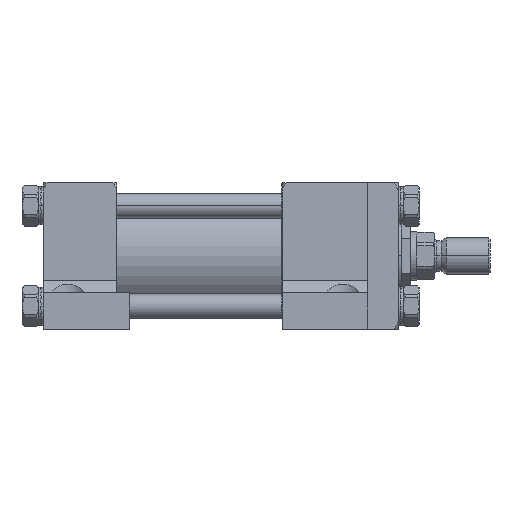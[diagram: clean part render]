
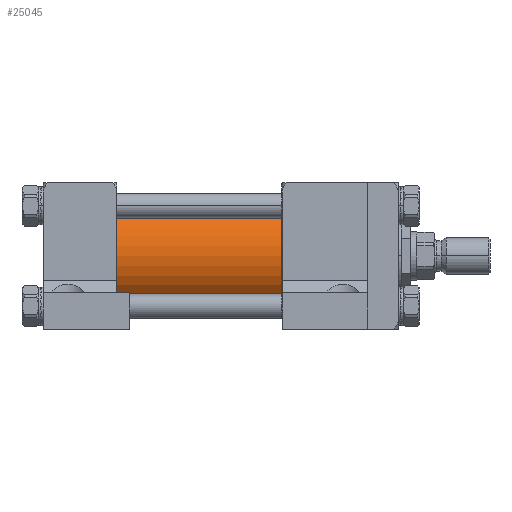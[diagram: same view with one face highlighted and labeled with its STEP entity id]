
A CAD part, front view. The second image highlights one B-rep face of the part: STEP entity #25045.
In plain terms, the highlighted cylindrical face has radius 30.163 mm (diameter 60.325 mm), a partial arc.
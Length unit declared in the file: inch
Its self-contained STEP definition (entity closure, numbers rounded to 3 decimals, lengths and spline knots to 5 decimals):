
#34 = LINE ( 'NONE', #56335, #26424 ) ;
#1640 = AXIS2_PLACEMENT_3D ( 'NONE', #3885, #55886, #46309 ) ;
#1739 = DIRECTION ( 'NONE',  ( 1., 0., 0. ) ) ;
#3885 = CARTESIAN_POINT ( 'NONE',  ( -6.75, 0., 0. ) ) ;
#4115 = LINE ( 'NONE', #4736, #44539 ) ;
#4736 = CARTESIAN_POINT ( 'NONE',  ( -6.75, 0., -1.1875 ) ) ;
#8928 = DIRECTION ( 'NONE',  ( 1., 0., 0. ) ) ;
#9049 = EDGE_CURVE ( 'NONE', #12679, #40033, #4115, .T. ) ;
#9250 = CIRCLE ( 'NONE', #54767, 1.1875 ) ;
#12679 = VERTEX_POINT ( 'NONE', #55128 ) ;
#13951 = CARTESIAN_POINT ( 'NONE',  ( -2.875, 0., -1.1875 ) ) ;
#16207 = ORIENTED_EDGE ( 'NONE', *, *, #18962, .F. ) ;
#16529 = AXIS2_PLACEMENT_3D ( 'NONE', #35159, #1739, #34548 ) ;
#17551 = DIRECTION ( 'NONE',  ( 1., 0., 0. ) ) ;
#17863 = CARTESIAN_POINT ( 'NONE',  ( -6.75, 0., 0. ) ) ;
#18962 = EDGE_CURVE ( 'NONE', #22301, #46704, #34, .T. ) ;
#22301 = VERTEX_POINT ( 'NONE', #38387 ) ;
#25045 = ADVANCED_FACE ( 'NONE', ( #58989 ), #44793, .T. ) ;
#26424 = VECTOR ( 'NONE', #8928, 39.37008 ) ;
#26821 = DIRECTION ( 'NONE',  ( 1., 0., 0. ) ) ;
#31168 = ORIENTED_EDGE ( 'NONE', *, *, #48825, .F. ) ;
#31524 = ORIENTED_EDGE ( 'NONE', *, *, #9049, .T. ) ;
#34548 = DIRECTION ( 'NONE',  ( 0., 1., 0. ) ) ;
#35159 = CARTESIAN_POINT ( 'NONE',  ( -2.875, 0., 0. ) ) ;
#35357 = CIRCLE ( 'NONE', #16529, 1.1875 ) ;
#36789 = DIRECTION ( 'NONE',  ( 0., 1., 0. ) ) ;
#38387 = CARTESIAN_POINT ( 'NONE',  ( -6.75, 0., 1.1875 ) ) ;
#40033 = VERTEX_POINT ( 'NONE', #13951 ) ;
#41102 = EDGE_LOOP ( 'NONE', ( #16207, #45028, #31524, #31168 ) ) ;
#44539 = VECTOR ( 'NONE', #26821, 39.37008 ) ;
#44793 = CYLINDRICAL_SURFACE ( 'NONE', #1640, 1.1875 ) ;
#45028 = ORIENTED_EDGE ( 'NONE', *, *, #54949, .T. ) ;
#46309 = DIRECTION ( 'NONE',  ( 0., 0., -1. ) ) ;
#46704 = VERTEX_POINT ( 'NONE', #47588 ) ;
#47588 = CARTESIAN_POINT ( 'NONE',  ( -2.875, 0., 1.1875 ) ) ;
#48825 = EDGE_CURVE ( 'NONE', #46704, #40033, #35357, .T. ) ;
#54767 = AXIS2_PLACEMENT_3D ( 'NONE', #17863, #17551, #36789 ) ;
#54949 = EDGE_CURVE ( 'NONE', #22301, #12679, #9250, .T. ) ;
#55128 = CARTESIAN_POINT ( 'NONE',  ( -6.75, 0., -1.1875 ) ) ;
#55886 = DIRECTION ( 'NONE',  ( 1., 0., 0. ) ) ;
#56335 = CARTESIAN_POINT ( 'NONE',  ( -6.75, 0., 1.1875 ) ) ;
#58989 = FACE_OUTER_BOUND ( 'NONE', #41102, .T. ) ;
